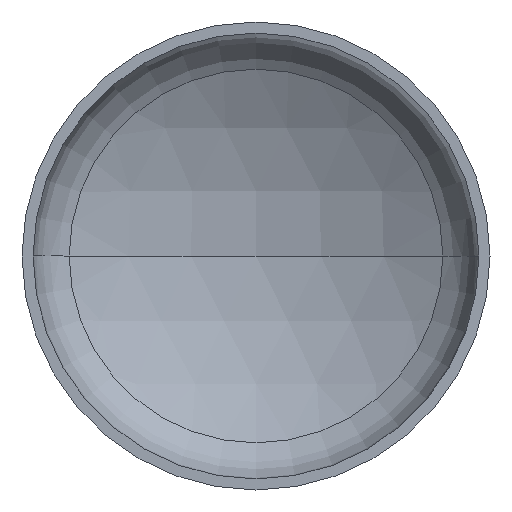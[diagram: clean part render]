
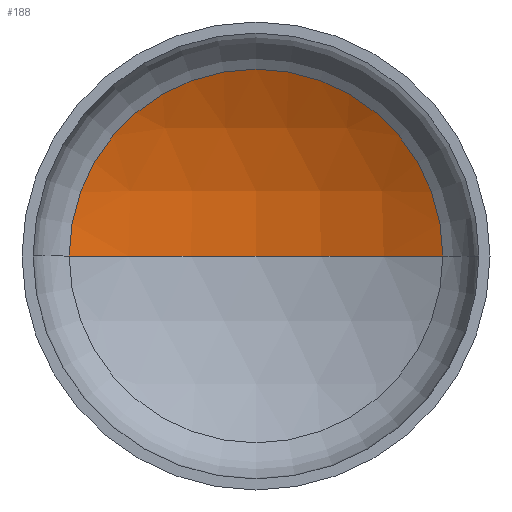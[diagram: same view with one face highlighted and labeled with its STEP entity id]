
A CAD part, front view. The second image highlights one B-rep face of the part: STEP entity #188.
In plain terms, the highlighted spherical face has radius 3040 mm.
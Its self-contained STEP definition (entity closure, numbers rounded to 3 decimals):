
#3 = DIRECTION ( 'NONE',  ( -1., 0., 0. ) ) ;
#9 = ORIENTED_EDGE ( 'NONE', *, *, #99, .T. ) ;
#13 = DIRECTION ( 'NONE',  ( 1., 0., 0. ) ) ;
#25 = AXIS2_PLACEMENT_3D ( 'NONE', #156, #234, #273 ) ;
#38 = DIRECTION ( 'NONE',  ( 0., 0., 1. ) ) ;
#50 = AXIS2_PLACEMENT_3D ( 'NONE', #55, #38, #13 ) ;
#55 = CARTESIAN_POINT ( 'NONE',  ( 0., -2027.534, 0. ) ) ;
#56 = AXIS2_PLACEMENT_3D ( 'NONE', #406, #262, #3 ) ;
#57 = AXIS2_PLACEMENT_3D ( 'NONE', #186, #171, #172 ) ;
#69 = VERTEX_POINT ( 'NONE', #280 ) ;
#99 = EDGE_CURVE ( 'NONE', #113, #122, #202, .T. ) ;
#101 = EDGE_CURVE ( 'NONE', #69, #113, #396, .T. ) ;
#103 = ORIENTED_EDGE ( 'NONE', *, *, #101, .T. ) ;
#106 = EDGE_CURVE ( 'NONE', #69, #122, #334, .T. ) ;
#113 = VERTEX_POINT ( 'NONE', #160 ) ;
#122 = VERTEX_POINT ( 'NONE', #257 ) ;
#127 = SPHERICAL_SURFACE ( 'NONE', #25, 3040. ) ;
#156 = CARTESIAN_POINT ( 'NONE',  ( 0., -2027.534, 0. ) ) ;
#160 = CARTESIAN_POINT ( 'NONE',  ( 1516.904, 606.968, 0. ) ) ;
#167 = EDGE_LOOP ( 'NONE', ( #401, #103, #9 ) ) ;
#171 = DIRECTION ( 'NONE',  ( 0., -1., 0. ) ) ;
#172 = DIRECTION ( 'NONE',  ( 1., 0., 0. ) ) ;
#186 = CARTESIAN_POINT ( 'NONE',  ( 0., 606.968, 0. ) ) ;
#188 = ADVANCED_FACE ( 'NONE', ( #378 ), #127, .F. ) ;
#202 = CIRCLE ( 'NONE', #57, 1516.904 ) ;
#234 = DIRECTION ( 'NONE',  ( 0., 0., -1. ) ) ;
#257 = CARTESIAN_POINT ( 'NONE',  ( -1516.904, 606.968, 0. ) ) ;
#262 = DIRECTION ( 'NONE',  ( 0., 0., -1. ) ) ;
#273 = DIRECTION ( 'NONE',  ( -1., 0., 0. ) ) ;
#280 = CARTESIAN_POINT ( 'NONE',  ( 0., 1012.466, 0. ) ) ;
#334 = CIRCLE ( 'NONE', #50, 3040. ) ;
#378 = FACE_OUTER_BOUND ( 'NONE', #167, .T. ) ;
#396 = CIRCLE ( 'NONE', #56, 3040. ) ;
#401 = ORIENTED_EDGE ( 'NONE', *, *, #106, .F. ) ;
#406 = CARTESIAN_POINT ( 'NONE',  ( 0., -2027.534, 0. ) ) ;
